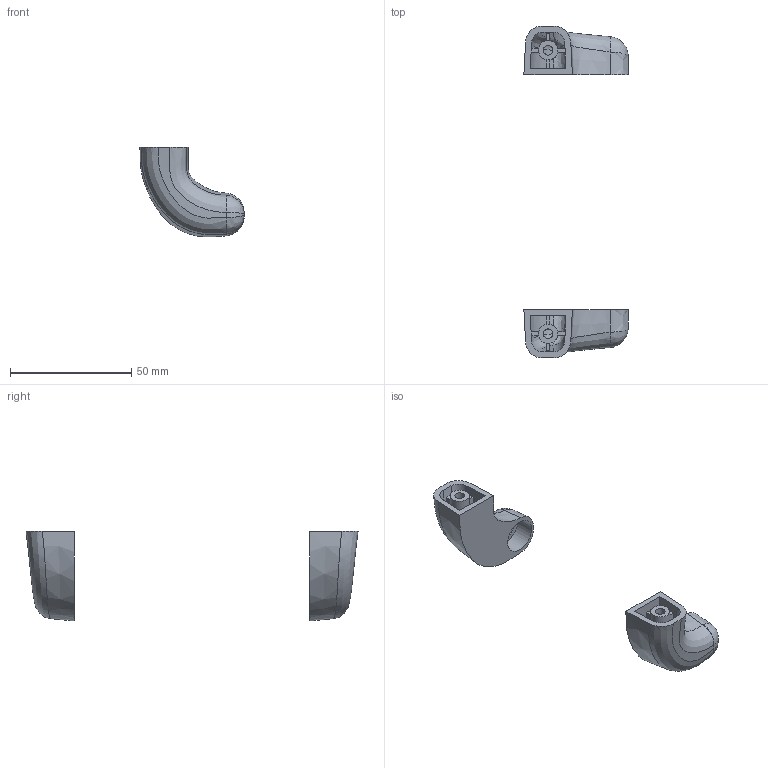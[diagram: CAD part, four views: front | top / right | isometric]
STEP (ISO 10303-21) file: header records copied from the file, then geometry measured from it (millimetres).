
FILE_DESCRIPTION (( 'STEP AP214' ), '1' );
FILE_NAME ('L15214.step', '2024-12-03T16:18:39', ( '' ), ( '' ), 'SwSTEP 2.0', 'SolidWorks 2023', '' );
FILE_SCHEMA (( 'AUTOMOTIVE_DESIGN' ));
Length unit declared in the file: millimetre
Products named in the file (1): L15214
Bounding box: 43 x 137 x 37.07 mm (x, y, z)
Volume: 20597.6 mm3; surface area: 12627.1 mm2
Topology: 2 solids, 2 shells, 96 faces, 256 edges, 162 vertices
Faces by surface type: bspline 40, plane 40, cylinder 8, cone 6, sphere 2
Full cylindrical faces by diameter (mm): 4 x2, 8 x2, 14 x2
Entity records: 5634 total; most frequent: CARTESIAN_POINT 3703, ORIENTED_EDGE 468, DIRECTION 262, EDGE_CURVE 234, VERTEX_POINT 156, B_SPLINE_CURVE_WITH_KNOTS 116, EDGE_LOOP 110, FACE_OUTER_BOUND 102
